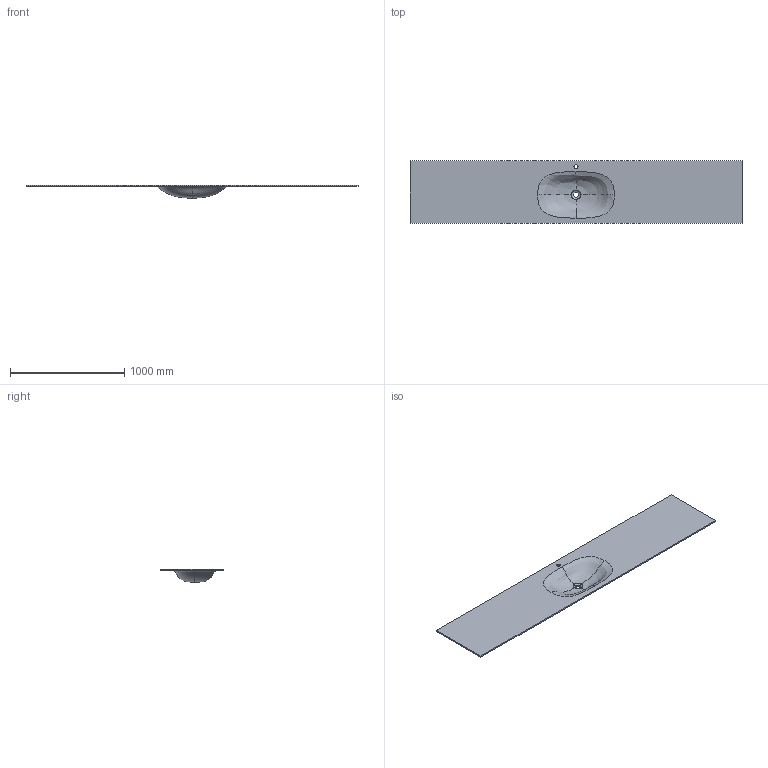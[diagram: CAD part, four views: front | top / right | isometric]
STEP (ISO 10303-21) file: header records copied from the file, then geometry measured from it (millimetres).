
FILE_DESCRIPTION (( 'STEP AP214' ), '1' );
FILE_NAME ('TRINITY 2900.STEP', '2024-05-10T08:25:55', ( '' ), ( '' ), 'SwSTEP 2.0', 'SolidWorks 2021', '' );
FILE_SCHEMA (( 'AUTOMOTIVE_DESIGN' ));
Length unit declared in the file: millimetre
Products named in the file (1): TRINITY 2900
Bounding box: 2900 x 550 x 121.39 mm (x, y, z)
Volume: 19591941.3 mm3; surface area: 3351007.6 mm2
Topology: 1 solids, 1 shells, 39 faces, 84 edges, 47 vertices
Faces by surface type: bspline 32, plane 6, cylinder 1
Full cylindrical faces by diameter (mm): 35 x1
Entity records: 19763 total; most frequent: CARTESIAN_POINT 19103, ORIENTED_EDGE 164, EDGE_CURVE 82, DIRECTION 54, VERTEX_POINT 46, B_SPLINE_CURVE_WITH_KNOTS 46, EDGE_LOOP 44, FACE_OUTER_BOUND 40
